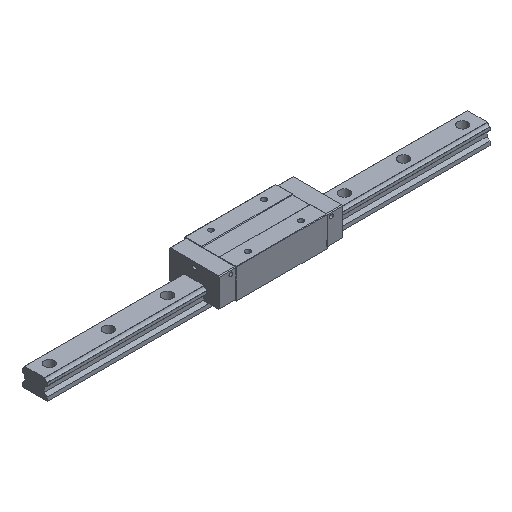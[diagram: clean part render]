
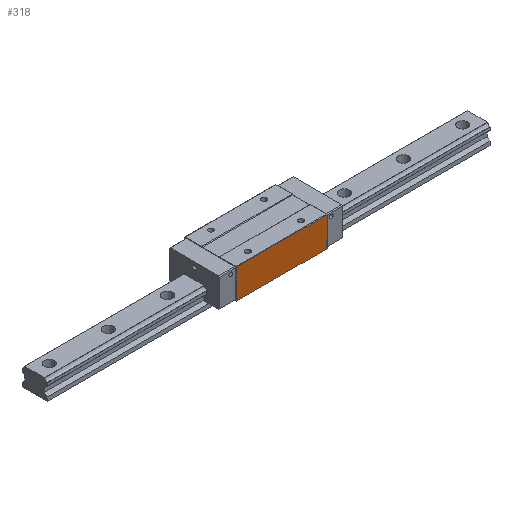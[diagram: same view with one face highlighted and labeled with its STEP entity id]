
A CAD part, isometric view. The second image highlights one B-rep face of the part: STEP entity #318.
In plain terms, the highlighted planar face has unit normal (0, -1, 0).
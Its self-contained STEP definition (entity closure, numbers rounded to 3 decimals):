
#97 = VERTEX_POINT ( 'NONE', #4976 ) ;
#318 = ADVANCED_FACE ( 'NONE', ( #1232 ), #2962, .F. ) ;
#449 = CARTESIAN_POINT ( 'NONE',  ( -61.5, -35., 47.5 ) ) ;
#523 = CARTESIAN_POINT ( 'NONE',  ( 61.5, -35., 47.5 ) ) ;
#692 = ORIENTED_EDGE ( 'NONE', *, *, #2139, .F. ) ;
#696 = VERTEX_POINT ( 'NONE', #449 ) ;
#1176 = DIRECTION ( 'NONE',  ( 0., 0., -1. ) ) ;
#1232 = FACE_OUTER_BOUND ( 'NONE', #4534, .T. ) ;
#1264 = ORIENTED_EDGE ( 'NONE', *, *, #5181, .T. ) ;
#1284 = DIRECTION ( 'NONE',  ( 0., 1., 0. ) ) ;
#1316 = EDGE_CURVE ( 'NONE', #97, #2448, #4620, .T. ) ;
#1327 = LINE ( 'NONE', #3056, #2905 ) ;
#1397 = VERTEX_POINT ( 'NONE', #3802 ) ;
#1464 = VECTOR ( 'NONE', #3038, 1000. ) ;
#1796 = ORIENTED_EDGE ( 'NONE', *, *, #1316, .F. ) ;
#1913 = DIRECTION ( 'NONE',  ( 0., 0., -1. ) ) ;
#2139 = EDGE_CURVE ( 'NONE', #2448, #1397, #2190, .T. ) ;
#2190 = LINE ( 'NONE', #3466, #1464 ) ;
#2448 = VERTEX_POINT ( 'NONE', #4119 ) ;
#2486 = CARTESIAN_POINT ( 'NONE',  ( 61.5, -35., 48. ) ) ;
#2773 = AXIS2_PLACEMENT_3D ( 'NONE', #4703, #1284, #3409 ) ;
#2905 = VECTOR ( 'NONE', #1913, 1000. ) ;
#2962 = PLANE ( 'NONE',  #2773 ) ;
#3038 = DIRECTION ( 'NONE',  ( -1., 0., 0. ) ) ;
#3056 = CARTESIAN_POINT ( 'NONE',  ( -61.5, -35., 48. ) ) ;
#3120 = VECTOR ( 'NONE', #3930, 1000. ) ;
#3409 = DIRECTION ( 'NONE',  ( 1., 0., 0. ) ) ;
#3466 = CARTESIAN_POINT ( 'NONE',  ( 61.5, -35., 7.5 ) ) ;
#3775 = EDGE_CURVE ( 'NONE', #97, #696, #3978, .T. ) ;
#3802 = CARTESIAN_POINT ( 'NONE',  ( -61.5, -35., 7.5 ) ) ;
#3930 = DIRECTION ( 'NONE',  ( -1., 0., 0. ) ) ;
#3973 = VECTOR ( 'NONE', #1176, 1000. ) ;
#3978 = LINE ( 'NONE', #523, #3120 ) ;
#4119 = CARTESIAN_POINT ( 'NONE',  ( 61.5, -35., 7.5 ) ) ;
#4534 = EDGE_LOOP ( 'NONE', ( #1796, #5469, #1264, #692 ) ) ;
#4620 = LINE ( 'NONE', #2486, #3973 ) ;
#4703 = CARTESIAN_POINT ( 'NONE',  ( 61.5, -35., 48. ) ) ;
#4976 = CARTESIAN_POINT ( 'NONE',  ( 61.5, -35., 47.5 ) ) ;
#5181 = EDGE_CURVE ( 'NONE', #696, #1397, #1327, .T. ) ;
#5469 = ORIENTED_EDGE ( 'NONE', *, *, #3775, .T. ) ;
